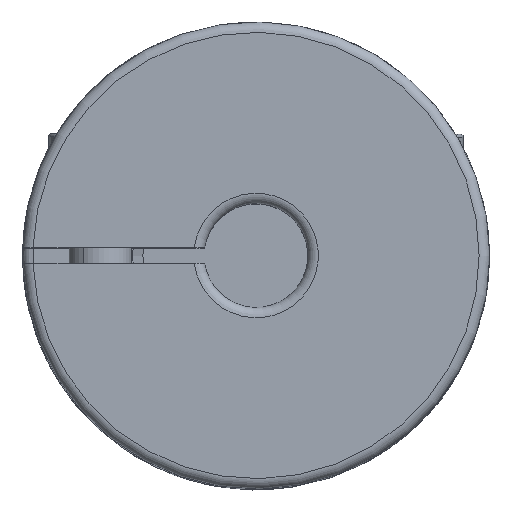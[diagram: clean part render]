
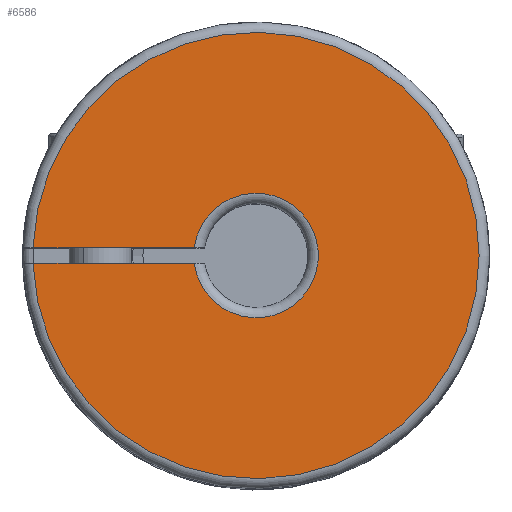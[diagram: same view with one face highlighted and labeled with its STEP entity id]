
A CAD part, top view. The second image highlights one B-rep face of the part: STEP entity #6586.
In plain terms, the highlighted planar face has unit normal (0, 0, 1) as drawn and (0, 0, -1) by its records, which use the part's own axes.
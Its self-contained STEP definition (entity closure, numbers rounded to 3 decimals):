
#103 = VERTEX_POINT ( 'NONE', #1669 ) ;
#157 = CARTESIAN_POINT ( 'NONE',  ( 21.487, -0.75, 0. ) ) ;
#168 = CIRCLE ( 'NONE', #2958, 21.5 ) ;
#208 = LINE ( 'NONE', #3341, #1362 ) ;
#258 = ORIENTED_EDGE ( 'NONE', *, *, #4669, .T. ) ;
#360 = DIRECTION ( 'NONE',  ( 1., 0., 0. ) ) ;
#391 = FACE_OUTER_BOUND ( 'NONE', #4792, .T. ) ;
#587 = DIRECTION ( 'NONE',  ( 1., 0., 0. ) ) ;
#714 = EDGE_CURVE ( 'NONE', #6694, #6423, #208, .T. ) ;
#925 = DIRECTION ( 'NONE',  ( 1., 0., 0. ) ) ;
#991 = CARTESIAN_POINT ( 'NONE',  ( 0., 0., 0. ) ) ;
#1023 = CARTESIAN_POINT ( 'NONE',  ( 0., 0., 0. ) ) ;
#1131 = DIRECTION ( 'NONE',  ( 0., 0., -1. ) ) ;
#1250 = ORIENTED_EDGE ( 'NONE', *, *, #2437, .F. ) ;
#1362 = VECTOR ( 'NONE', #2262, 1000. ) ;
#1490 = CIRCLE ( 'NONE', #2795, 6. ) ;
#1669 = CARTESIAN_POINT ( 'NONE',  ( 21.487, 0.75, 0. ) ) ;
#1715 = EDGE_CURVE ( 'NONE', #4374, #6423, #1490, .T. ) ;
#1844 = LINE ( 'NONE', #3912, #2330 ) ;
#1866 = CARTESIAN_POINT ( 'NONE',  ( 0., 0., 0. ) ) ;
#2262 = DIRECTION ( 'NONE',  ( -1., 0., 0. ) ) ;
#2330 = VECTOR ( 'NONE', #2419, 1000. ) ;
#2419 = DIRECTION ( 'NONE',  ( 1., 0., 0. ) ) ;
#2437 = EDGE_CURVE ( 'NONE', #4374, #103, #1844, .T. ) ;
#2691 = CARTESIAN_POINT ( 'NONE',  ( 5.953, 0.75, 0. ) ) ;
#2795 = AXIS2_PLACEMENT_3D ( 'NONE', #1866, #4902, #360 ) ;
#2958 = AXIS2_PLACEMENT_3D ( 'NONE', #1023, #1131, #587 ) ;
#2982 = PLANE ( 'NONE',  #3556 ) ;
#3341 = CARTESIAN_POINT ( 'NONE',  ( 26., -0.75, 0. ) ) ;
#3556 = AXIS2_PLACEMENT_3D ( 'NONE', #991, #3558, #925 ) ;
#3558 = DIRECTION ( 'NONE',  ( 0., 0., 1. ) ) ;
#3912 = CARTESIAN_POINT ( 'NONE',  ( 26., 0.75, 0. ) ) ;
#4374 = VERTEX_POINT ( 'NONE', #2691 ) ;
#4669 = EDGE_CURVE ( 'NONE', #6694, #103, #168, .T. ) ;
#4792 = EDGE_LOOP ( 'NONE', ( #1250, #5788, #5281, #258 ) ) ;
#4902 = DIRECTION ( 'NONE',  ( 0., 0., 1. ) ) ;
#5281 = ORIENTED_EDGE ( 'NONE', *, *, #714, .F. ) ;
#5788 = ORIENTED_EDGE ( 'NONE', *, *, #1715, .T. ) ;
#6005 = CARTESIAN_POINT ( 'NONE',  ( 5.953, -0.75, 0. ) ) ;
#6423 = VERTEX_POINT ( 'NONE', #6005 ) ;
#6586 = ADVANCED_FACE ( 'NONE', ( #391 ), #2982, .F. ) ;
#6694 = VERTEX_POINT ( 'NONE', #157 ) ;
